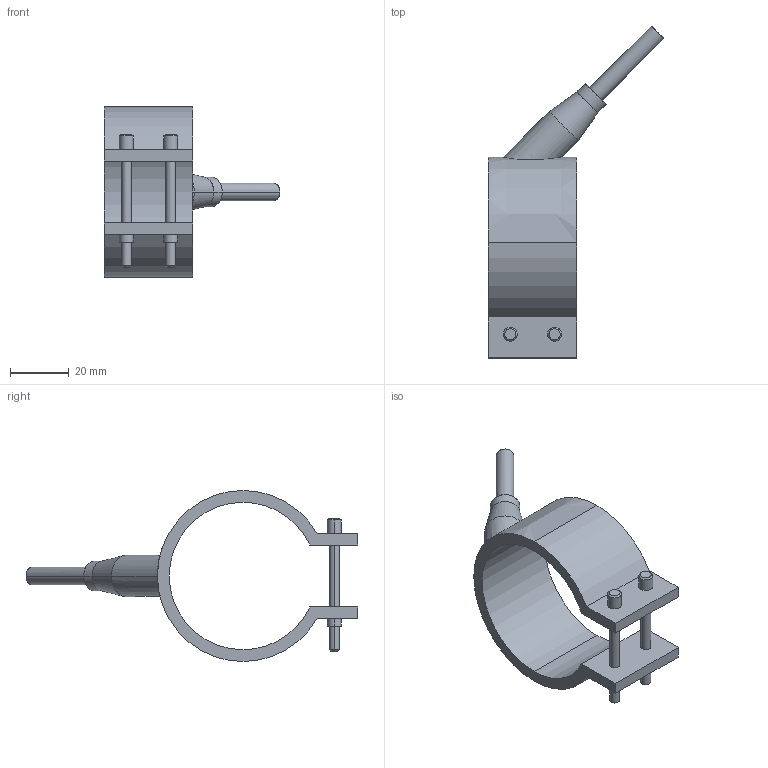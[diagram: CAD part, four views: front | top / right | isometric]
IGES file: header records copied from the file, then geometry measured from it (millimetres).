
Start section: START RECORD GO HERE.
Global section: file name: 29050030.igs; native system: DASSAULT SYSTEMES CATIA V5 R20 - www.3ds.com; preprocessor: CATIA Version 5 Release 20 ; author: Utente; organization: NB04-ASUS; date: 20210327.103145; units: millimetre
Bounding box: 59.55 x 112.55 x 58 mm (x, y, z)
Surface area: 14515.5 mm2 (no closed solid volume)
Topology: 0 solids, 0 shells, 54 faces, 248 edges, 248 vertices
Faces by surface type: revolution 38, plane 16
